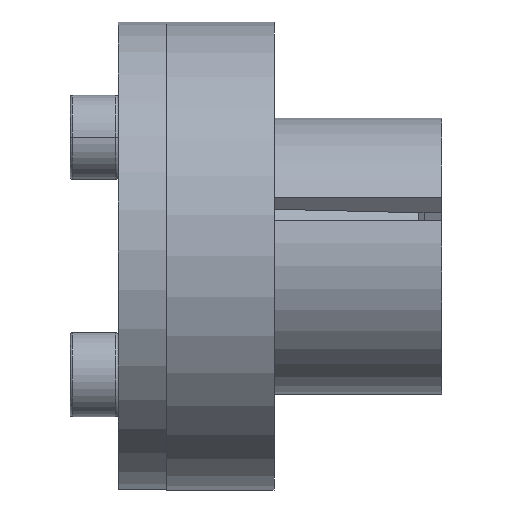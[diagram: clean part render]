
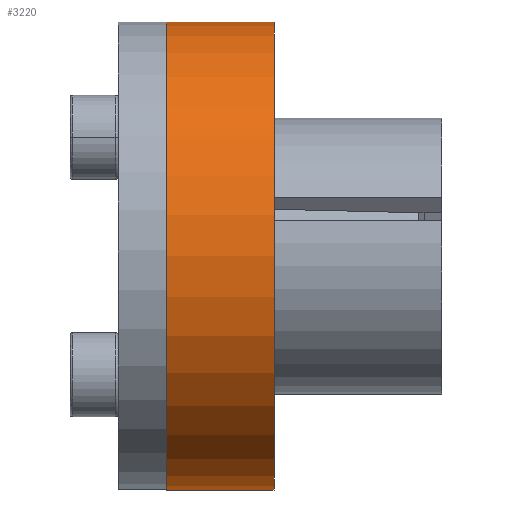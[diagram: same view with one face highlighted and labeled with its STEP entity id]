
A CAD part, front view. The second image highlights one B-rep face of the part: STEP entity #3220.
In plain terms, the highlighted cylindrical face has radius 19.5 mm (diameter 39 mm), a partial arc.
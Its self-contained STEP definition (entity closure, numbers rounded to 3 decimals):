
#65 = CARTESIAN_POINT ( 'NONE',  ( -9.5, 0., 19.5 ) ) ;
#98 = VECTOR ( 'NONE', #3086, 1000. ) ;
#100 = VECTOR ( 'NONE', #855, 1000. ) ;
#122 = VERTEX_POINT ( 'NONE', #2849 ) ;
#137 = DIRECTION ( 'NONE',  ( -1., 0., 0. ) ) ;
#282 = AXIS2_PLACEMENT_3D ( 'NONE', #3054, #1142, #3378 ) ;
#537 = ORIENTED_EDGE ( 'NONE', *, *, #1700, .T. ) ;
#768 = DIRECTION ( 'NONE',  ( 0., 0., 1. ) ) ;
#855 = DIRECTION ( 'NONE',  ( -1., 0., 0. ) ) ;
#920 = LINE ( 'NONE', #2447, #100 ) ;
#967 = AXIS2_PLACEMENT_3D ( 'NONE', #1718, #137, #768 ) ;
#1082 = FACE_OUTER_BOUND ( 'NONE', #2345, .T. ) ;
#1142 = DIRECTION ( 'NONE',  ( -1., 0., 0. ) ) ;
#1191 = ORIENTED_EDGE ( 'NONE', *, *, #2719, .F. ) ;
#1195 = ORIENTED_EDGE ( 'NONE', *, *, #3919, .F. ) ;
#1244 = VERTEX_POINT ( 'NONE', #2411 ) ;
#1455 = ORIENTED_EDGE ( 'NONE', *, *, #2188, .T. ) ;
#1499 = CARTESIAN_POINT ( 'NONE',  ( -0.5, 0., 0. ) ) ;
#1700 = EDGE_CURVE ( 'NONE', #122, #1244, #3470, .T. ) ;
#1718 = CARTESIAN_POINT ( 'NONE',  ( -13.5, 0., 0. ) ) ;
#1764 = LINE ( 'NONE', #2201, #98 ) ;
#1833 = DIRECTION ( 'NONE',  ( 0., 0., 1. ) ) ;
#2158 = DIRECTION ( 'NONE',  ( -1., 0., 0. ) ) ;
#2188 = EDGE_CURVE ( 'NONE', #1244, #3046, #1764, .T. ) ;
#2201 = CARTESIAN_POINT ( 'NONE',  ( -13.5, 0., 19.5 ) ) ;
#2345 = EDGE_LOOP ( 'NONE', ( #1195, #537, #1455, #1191 ) ) ;
#2411 = CARTESIAN_POINT ( 'NONE',  ( -0.5, 0., 19.5 ) ) ;
#2447 = CARTESIAN_POINT ( 'NONE',  ( -13.5, 0., -19.5 ) ) ;
#2677 = CYLINDRICAL_SURFACE ( 'NONE', #967, 19.5 ) ;
#2719 = EDGE_CURVE ( 'NONE', #3615, #3046, #3637, .T. ) ;
#2849 = CARTESIAN_POINT ( 'NONE',  ( -0.5, 0., -19.5 ) ) ;
#3046 = VERTEX_POINT ( 'NONE', #65 ) ;
#3054 = CARTESIAN_POINT ( 'NONE',  ( -9.5, 0., 0. ) ) ;
#3086 = DIRECTION ( 'NONE',  ( -1., 0., 0. ) ) ;
#3220 = ADVANCED_FACE ( 'NONE', ( #1082 ), #2677, .T. ) ;
#3234 = CARTESIAN_POINT ( 'NONE',  ( -9.5, 0., -19.5 ) ) ;
#3378 = DIRECTION ( 'NONE',  ( 0., 0., 1. ) ) ;
#3470 = CIRCLE ( 'NONE', #4062, 19.5 ) ;
#3615 = VERTEX_POINT ( 'NONE', #3234 ) ;
#3637 = CIRCLE ( 'NONE', #282, 19.5 ) ;
#3919 = EDGE_CURVE ( 'NONE', #122, #3615, #920, .T. ) ;
#4062 = AXIS2_PLACEMENT_3D ( 'NONE', #1499, #2158, #1833 ) ;
